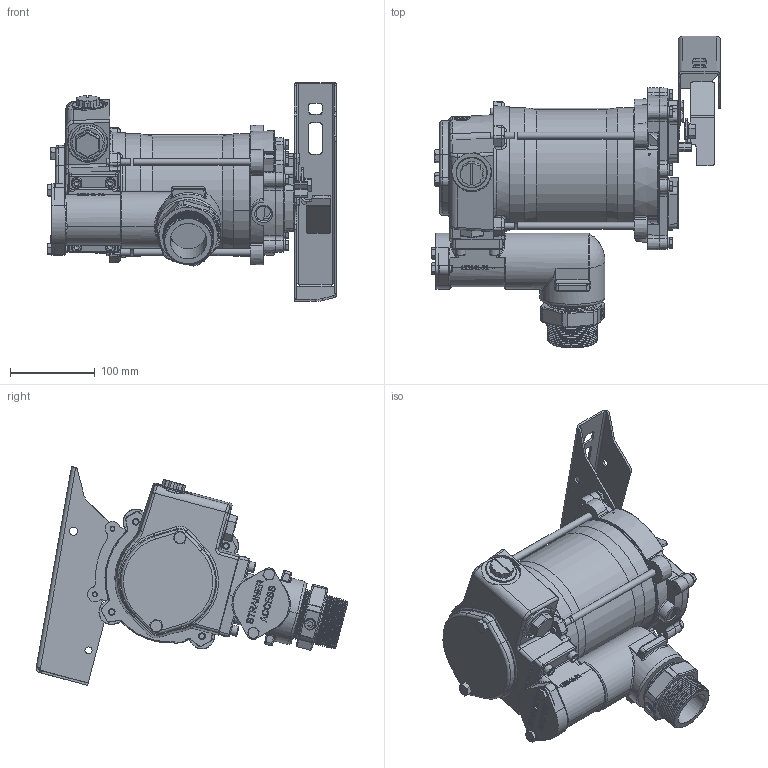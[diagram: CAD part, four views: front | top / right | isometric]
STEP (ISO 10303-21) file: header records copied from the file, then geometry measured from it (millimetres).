
FILE_DESCRIPTION(/* description */ (''),/* implementation_level */ '2;1');
FILE_NAME(/* name */ 'C:\Vault Projects\GPI Eng\New Projects\DHarris\Website model updates\STEP\PRO20-115PO.stp',/* time_stamp */ '2022-07-19T16:32:35-05:00',/* author */ ('gdanhar'),/* organization */ (''),/* preprocessor_version */ 'ST-DEVELOPER v18.1',/* originating_system */ 'Autodesk Inventor 2022',/* authorisation */ '');
FILE_SCHEMA (('AUTOMOTIVE_DESIGN { 1 0 10303 214 3 1 1 }'));
Length unit declared in the file: inch
Products named in the file (1): PRO20-115PO
Bounding box: 340.94 x 367.78 x 258.11 mm (x, y, z)
Volume: 5416026.1 mm3; surface area: 427833.3 mm2
Topology: 1 solids, 1 shells, 4507 faces, 11960 edges, 7612 vertices
Faces by surface type: plane 2256, bspline 913, cylinder 685, cone 383, torus 188, sphere 82
Full cylindrical faces by diameter (mm): 2.184 x1, 6.35 x1, 7.806 x4, 7.938 x10, 8.23 x4, 8.382 x1, 9.525 x8, 10.001 x2, 11.112 x9, 11.125 x8, 11.906 x4, 12.56 x2, 12.7 x4, 12.706 x1, 12.832 x8, 19.05 x2, 19.939 x1, 28.702 x7, 29.362 x2, 30.34 x1, 31.153 x1, 32.059 x3, 33.477 x4, 33.998 x1, 40.64 x1, 43.18 x1, 47.625 x1, 139.7 x1
Entity records: 187429 total; most frequent: CARTESIAN_POINT 77866, ORIENTED_EDGE 23856, DIRECTION 18742, EDGE_CURVE 11928, VERTEX_POINT 7610, LINE 6846, VECTOR 6846, AXIS2_PLACEMENT_3D 5948
